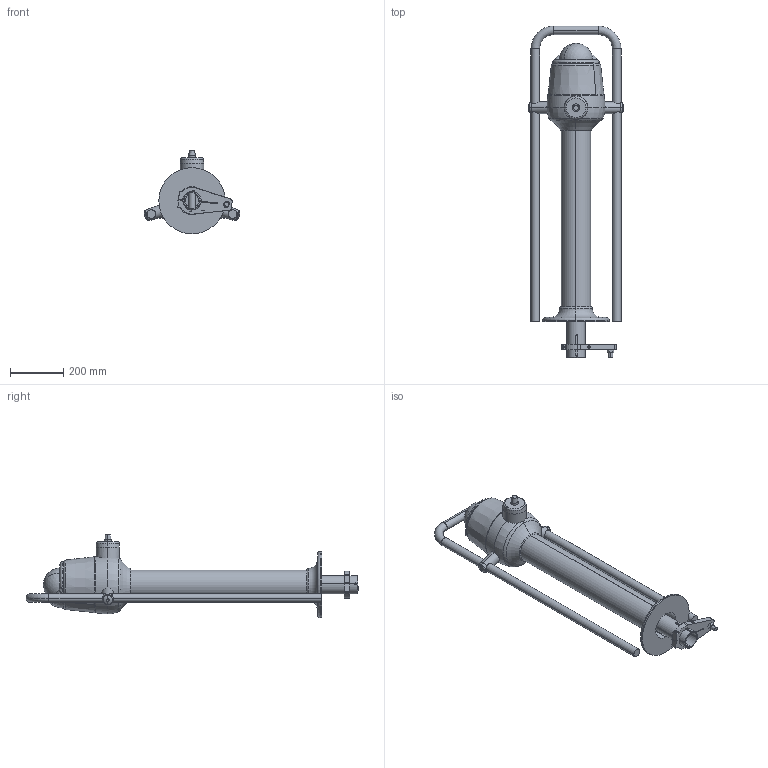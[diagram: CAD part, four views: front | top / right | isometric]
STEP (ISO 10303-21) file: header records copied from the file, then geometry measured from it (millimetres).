
FILE_DESCRIPTION (( 'STEP AP214' ), '1' );
FILE_NAME ('RP100-80.STEP', '2014-09-09T08:57:28', ( '' ), ( '' ), 'SwSTEP 2.0', 'SolidWorks 2014', '' );
FILE_SCHEMA (( 'AUTOMOTIVE_DESIGN' ));
Length unit declared in the file: millimetre
Products named in the file (12): RP100 Binacelhus; Glass for compass horizon; Body for compass horizon_No bottom; RP100 guardrail; RP100 pedestal_Standard 800; RP100-80; Output lever_Output lever ›69; Z4-211 RP71 Downtube ø70x84_710; plain washer grade c_din_Washer DIN 126 - 6.6; socket head cap screw_din_DIN 912 M6 x 30 --- 30S; countersunk raised head cross recess screw_din_ISO 7047 - M3 x 12 - Z --- 12S; Body for compass horizon_No top
Assembly tree (20 placements, depth 2):
  RP100-80
    RP100 pedestal_Standard 800
    RP100 guardrail
    Body for compass horizon_No bottom
    Glass for compass horizon
    RP100 Binacelhus
    Body for compass horizon_No top
    countersunk raised head cross recess screw_din_ISO 7047 - M3 x 12 - Z --- 12S  x4
    socket head cap screw_din_DIN 912 M6 x 30 --- 30S  x4
    plain washer grade c_din_Washer DIN 126 - 6.6  x4
    Z4-211 RP71 Downtube ø70x84_710
    Output lever_Output lever ›69
Bounding box: 356.74 x 1242.5 x 313.5 mm (x, y, z)
Volume: 8656498 mm3; surface area: 1858260.6 mm2
Topology: 20 solids, 20 shells, 1707 faces, 4372 edges, 2709 vertices
Faces by surface type: cone 844, cylinder 551, plane 233, torus 63, sphere 14, bspline 2
Entity records: 21472 total; most frequent: CARTESIAN_POINT 4866, DIRECTION 3729, ORIENTED_EDGE 3180, EDGE_CURVE 1590, AXIS2_PLACEMENT_3D 1561, VERTEX_POINT 994, CIRCLE 907, EDGE_LOOP 706
